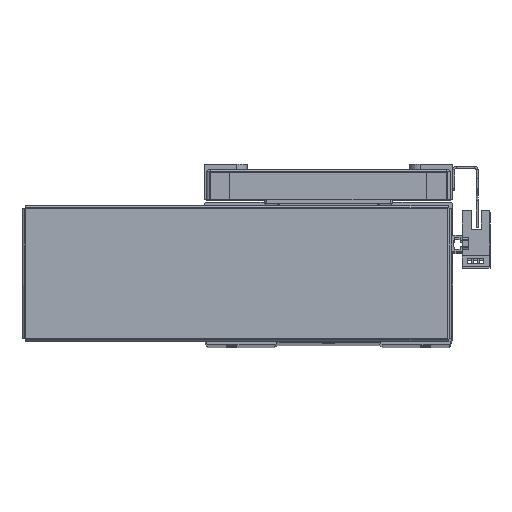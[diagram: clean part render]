
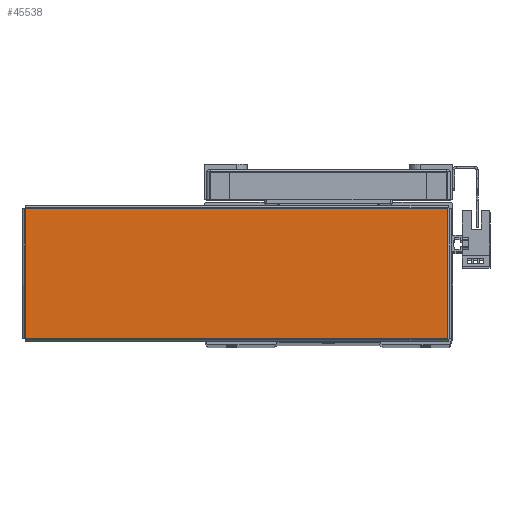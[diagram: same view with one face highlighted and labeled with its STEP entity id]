
A CAD part, top view. The second image highlights one B-rep face of the part: STEP entity #45538.
In plain terms, the highlighted planar face has unit normal (0, 0, 1) as drawn and (0, -1, 0) by its records, which use the part's own axes.
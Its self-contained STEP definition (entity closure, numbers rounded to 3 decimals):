
#945 = EDGE_LOOP ( 'NONE', ( #49996, #49919, #49980, #49975 ) ) ;
#1791 = CARTESIAN_POINT ( 'NONE',  ( 103.793, -1., 31.763 ) ) ;
#1797 = DIRECTION ( 'NONE',  ( -1., 0., 0. ) ) ;
#7340 = DIRECTION ( 'NONE',  ( 0., 0., 1. ) ) ;
#7366 = CARTESIAN_POINT ( 'NONE',  ( -103.793, -1., -31.763 ) ) ;
#7370 = CARTESIAN_POINT ( 'NONE',  ( 103.763, -1., -31.793 ) ) ;
#7396 = DIRECTION ( 'NONE',  ( 1., 0., 0. ) ) ;
#7581 = PLANE ( 'NONE',  #14619 ) ;
#7598 = CARTESIAN_POINT ( 'NONE',  ( 0., -1., 0. ) ) ;
#7635 = DIRECTION ( 'NONE',  ( 0., 1., 0. ) ) ;
#7656 = DIRECTION ( 'NONE',  ( 0., 0., 1. ) ) ;
#10206 = FACE_OUTER_BOUND ( 'NONE', #945, .T. ) ;
#14619 = AXIS2_PLACEMENT_3D ( 'NONE', #7598, #7635, #7656 ) ;
#21927 = VECTOR ( 'NONE', #1797, 1000. ) ;
#21935 = LINE ( 'NONE', #1791, #21927 ) ;
#21985 = VECTOR ( 'NONE', #47450, 1000. ) ;
#22000 = LINE ( 'NONE', #7366, #22003 ) ;
#22002 = LINE ( 'NONE', #47441, #21985 ) ;
#22003 = VECTOR ( 'NONE', #7396, 1000. ) ;
#22045 = VECTOR ( 'NONE', #7340, 1000. ) ;
#22077 = LINE ( 'NONE', #7370, #22045 ) ;
#23241 = EDGE_CURVE ( 'NONE', #27503, #27410, #21935, .T. ) ;
#23282 = EDGE_CURVE ( 'NONE', #27410, #27523, #22002, .T. ) ;
#23291 = EDGE_CURVE ( 'NONE', #27523, #27179, #22000, .T. ) ;
#23296 = EDGE_CURVE ( 'NONE', #27179, #27503, #22077, .T. ) ;
#27179 = VERTEX_POINT ( 'NONE', #57734 ) ;
#27410 = VERTEX_POINT ( 'NONE', #57816 ) ;
#27503 = VERTEX_POINT ( 'NONE', #57921 ) ;
#27523 = VERTEX_POINT ( 'NONE', #57863 ) ;
#45538 = ADVANCED_FACE ( 'NONE', ( #10206 ), #7581, .F. ) ;
#47441 = CARTESIAN_POINT ( 'NONE',  ( -103.763, -1., 31.793 ) ) ;
#47450 = DIRECTION ( 'NONE',  ( 0., 0., -1. ) ) ;
#49919 = ORIENTED_EDGE ( 'NONE', *, *, #23282, .T. ) ;
#49975 = ORIENTED_EDGE ( 'NONE', *, *, #23296, .T. ) ;
#49980 = ORIENTED_EDGE ( 'NONE', *, *, #23291, .T. ) ;
#49996 = ORIENTED_EDGE ( 'NONE', *, *, #23241, .T. ) ;
#57734 = CARTESIAN_POINT ( 'NONE',  ( 103.763, -1., -31.763 ) ) ;
#57816 = CARTESIAN_POINT ( 'NONE',  ( -103.763, -1., 31.763 ) ) ;
#57863 = CARTESIAN_POINT ( 'NONE',  ( -103.763, -1., -31.763 ) ) ;
#57921 = CARTESIAN_POINT ( 'NONE',  ( 103.763, -1., 31.763 ) ) ;
